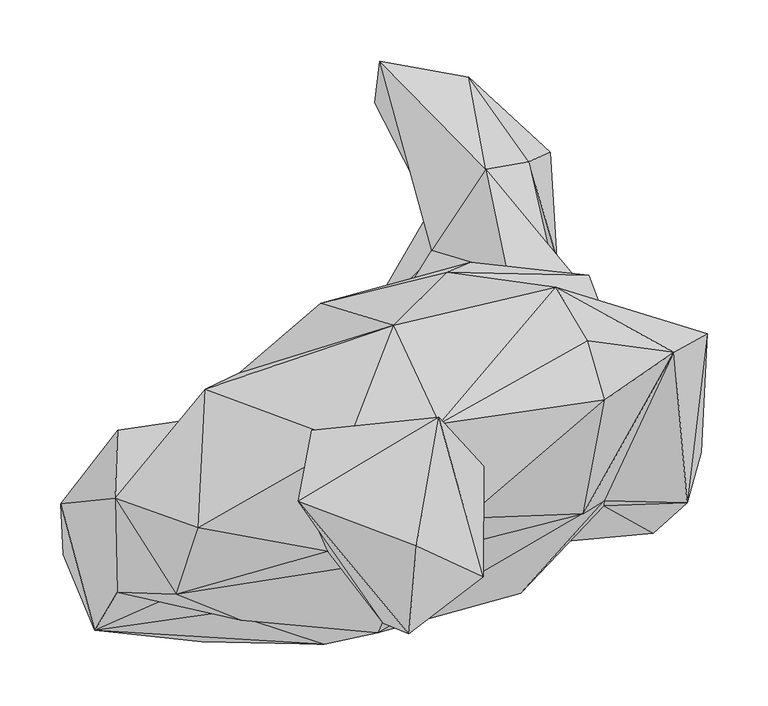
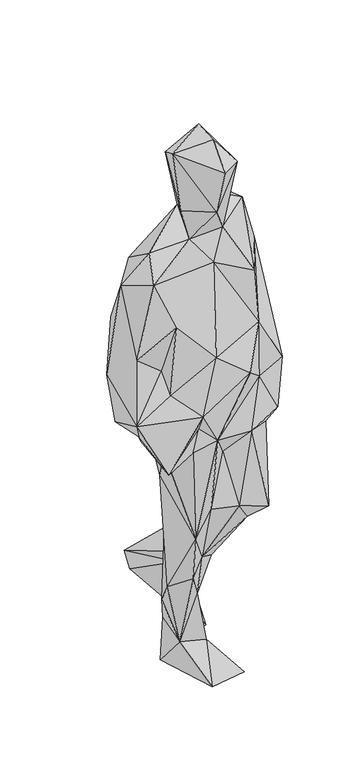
"""IFC4 building model written with IfcOpenShell, lengths in millimetres: geographic element geometry, Enscape AssetDefinition - Bobby 001 Standing : Enscape AssetDefinition - Bobby 001 Standing."""

from ifc_helpers import new_model, si_unit, origin, place, context, project, spatial, triangles, source, transform, mapped, element, save


def geographic_element_29ff1dcc(model_context):
    return source(origin(), model_context, "Body", "Tessellation", [
        triangles([(2.9679999, -204.1410097, 792.0780333), (22.8920007, -135.4189962, 529.8139907), (-40.2599972, -166.9989999, 479.2949813), (-76.8619963, -86.9470003, 296.2329902), (-156.3320093, -230.6600123, 756.3319593), (-72.1750049, -209.1290046, 782.9200167), (-53.7380035, -206.2759993, 848.6830084), (-122.2729963, -151.0310065, 763.4129951), (-186.7250124, -143.4109956, 819.0929541), (-55.8459962, -232.8949958, 901.4209957), (-243.9340023, -221.2280118, 931.199992), (105.3830025, -190.7119965, 956.7810614), (67.1629971, -117.6379957, 682.6719933), (173.3400009, -119.3049997, 879.7710091), (214.0650042, -141.7339995, 783.4529783), (14.9830006, -161.6949995, 1312.1860394), (173.8570115, -115.2409945, 1046.4849609), (241.573009, -116.5340024, 914.7150244), (253.0590085, -75.3979959, 878.095966), (188.1279973, -64.6620006, 850.4819538), (257.9880136, 21.9389997, 1034.7550083), (174.1039986, 34.8029992, 1094.5980852), (161.0790124, 69.7209987, 982.3249964), (183.5040062, -4.671, 880.9159973), (195.1690101, -38.0910003, 565.1249894), (126.2159969, -20.114999, 541.7539959), (196.0409954, -112.8040066, 728.6019659), (110.2759996, 43.9290001, 832.0900532), (64.3749996, 80.3490018, 896.5349567), (45.1559965, 72.4400006, 1063.6600027), (133.778008, 60.1290015, 1311.1230228), (31.6709979, 52.032003, 839.1469625), (-58.8850004, 46.9590023, 948.4740103), (71.8750005, -27.9660006, 626.4209936), (41.2439987, -47.083, 702.7749813), (-72.2879977, -46.2649994, 745.200008), (-105.3109956, -98.8800019, 657.6020119), (33.185999, -13.4559998, 520.0830076), (20.9060004, -17.0230014, 632.7720594), (-63.9220022, -54.7199975, 533.3909889), (94.1839949, 71.9769974, 399.1999792), (212.7680085, -66.2640013, 530.1740341), (147.7130041, 70.6610031, 397.4049943), (32.118, 90.3240016, 260.800996), (76.5320019, 156.9420011, 291.3799798), (193.3739888, -131.7089937, 479.7900092), (19.125, -98.3539984, 362.1530036), (174.6439911, -55.3769978, 407.4530002), (129.970001, 84.445, 286.6309964), (100.1889972, -2.0550001, 281.518009), (133.8800004, -149.1889951, 742.7629475), (97.3189962, -148.249999, 522.1509773), (16.1150002, -76.6729998, 237.5949996), (-24.0779998, -127.3449977, 326.7159951), (-54.0210031, -19.1009984, 209.0499942), (20.7850004, 15.5129998, 202.4920006), (-20.2980002, 5.5709995, 318.0040269), (48.989002, 87.701996, 223.7310021), (-10.2390007, 245.4629969, 183.9059984), (111.9289965, 163.1810098, 190.6069884), (-14.5310001, 211.4360041, 149.1910026), (62.6380008, 232.4920044, 127.2089958), (129.5070024, 170.9570068, 49.4149979), (134.6790068, 84.0290007, 1.347), (9.0860001, 56.8200011, 26.3570008), (54.4020028, -3.5929998, 60.4099981), (41.5199993, -79.3429949, 88.6339976), (95.4029976, -178.269006, 29.2660007), (52.8650008, -86.1800049, 1.226), (4.7909997, -172.3369916, 11.4590003), (-43.2749975, 6.2950004, 3.3539999), (-27.1139995, -64.1349979, 95.5360018), (46.3509998, 149.7420045, 78.5370031), (-25.590001, 25.5420002, 116.1900009), (20.3649997, 26.8820006, 125.7969999), (42.7399966, 95.3349966, 148.7309925), (-125.141989, -10.0940003, 918.6110075), (-174.7989962, -49.8440006, 1189.4420053), (1.022, 28.944, 1341.4599792), (-233.6020021, -85.6370057, 960.454965), (-162.3630002, -80.3920043, 944.1400452), (-225.3410056, -57.3189986, 1164.1089586), (-153.3229996, -23.651, 1302.111945), (-159.2969991, -137.2849978, 1385.3559917), (-63.4529946, -132.7469936, 1480.0880001), (-36.0740018, -66.9609973, 1450.7679874), (-52.9550026, -156.3369872, 1403.8419273), (-77.3520009, -115.5900012, 1652.0709618), (-66.3570007, -57.234002, 1618.4840584), (-7.4420001, -215.571998, 1507.1649811), (19.3969992, -152.0179921, 1682.0419521), (13.1909997, -224.0960053, 1625.693066), (74.6409972, -177.4650035, 1612.4929996), (37.8369982, -46.8729974, 1661.9809673), (74.7110011, -86.8420012, 1537.6859379), (160.303987, 16.1869991, 1374.7019909), (38.6719991, -52.1179988, 1461.0550049), (230.8389985, 6.8499998, 1212.991004), (174.2990085, -32.134998, 1379.1440163), (156.6800076, -125.8089995, 1215.7430889), (60.6819973, -129.6029994, 1386.2630585), (-177.3760009, -191.9170102, 1325.0290054), (-136.9790027, -206.2170094, 979.10201), (-12.0630003, -223.1940073, 1063.8099936), (-124.107005, -212.9790058, 1190.0329576), (-225.5040044, -189.998995, 1109.7650373), (-147.4290007, -178.5779988, 1042.5180519), (-271.8079913, -117.6249969, 1038.6370388), (-227.3349973, -113.0620033, 1293.8730583), (-219.8139992, -190.9810026, 873.0839899), (-270.1059876, -159.3769906, 917.9099602)], [[80, 110, 111], [11, 103, 107], [110, 11, 111], [108, 80, 111], [80, 108, 82], [111, 11, 108], [82, 108, 109], [108, 11, 106], [106, 11, 107], [106, 109, 108], [103, 104, 105], [107, 105, 106], [103, 105, 107], [106, 105, 102], [106, 102, 109], [105, 104, 16], [102, 105, 16], [100, 101, 16], [98, 99, 100], [99, 101, 100], [99, 98, 96], [98, 31, 96], [96, 97, 99], [97, 101, 99], [31, 97, 96], [95, 101, 97], [95, 93, 101], [95, 97, 94], [93, 95, 94], [91, 93, 94], [91, 92, 93], [92, 90, 93], [90, 101, 93], [88, 91, 94], [88, 92, 91], [88, 90, 92], [97, 89, 94], [88, 94, 89], [89, 85, 88], [85, 90, 88], [90, 87, 101], [87, 102, 16], [87, 16, 101], [85, 87, 90], [84, 102, 87], [109, 102, 84], [97, 86, 89], [84, 87, 86], [85, 89, 86], [87, 85, 86], [31, 79, 97], [97, 79, 86], [79, 83, 86], [83, 84, 86], [83, 109, 84], [109, 83, 78], [82, 109, 78], [78, 80, 82], [110, 80, 81], [80, 78, 81], [83, 77, 78], [77, 83, 79], [77, 81, 78], [74, 75, 76], [73, 74, 76], [65, 74, 73], [75, 74, 56], [74, 65, 71], [71, 72, 74], [71, 70, 72], [70, 67, 72], [65, 69, 71], [69, 70, 71], [69, 68, 70], [70, 68, 67], [75, 66, 76], [56, 66, 75], [66, 69, 65], [67, 68, 66], [68, 69, 66], [76, 66, 64], [64, 65, 73], [66, 65, 64], [63, 64, 73], [62, 63, 73], [62, 73, 61], [60, 64, 63], [60, 76, 64], [63, 62, 60], [49, 76, 60], [60, 62, 45], [45, 49, 60], [45, 62, 59], [62, 61, 59], [59, 61, 58], [76, 49, 58], [73, 58, 61], [73, 76, 58], [59, 44, 45], [59, 58, 44], [56, 44, 58], [56, 57, 44], [56, 74, 57], [74, 55, 57], [72, 55, 74], [57, 55, 40], [4, 37, 40], [72, 4, 55], [4, 40, 55], [72, 54, 4], [53, 67, 66], [54, 72, 53], [72, 67, 53], [53, 66, 56], [58, 50, 56], [50, 53, 56], [50, 58, 49], [50, 47, 53], [47, 54, 53], [2, 52, 13], [2, 47, 52], [52, 51, 13], [46, 27, 51], [52, 46, 51], [49, 48, 50], [46, 52, 48], [48, 47, 50], [52, 47, 48], [42, 27, 46], [42, 46, 48], [43, 42, 48], [43, 48, 49], [43, 49, 45], [44, 41, 45], [45, 41, 43], [57, 41, 44], [42, 43, 26], [43, 41, 26], [41, 57, 38], [41, 38, 26], [57, 40, 38], [26, 39, 34], [26, 38, 39], [39, 38, 40], [34, 39, 35], [39, 36, 35], [39, 40, 36], [36, 37, 77], [40, 37, 36], [33, 36, 77], [33, 77, 79], [32, 35, 36], [34, 35, 32], [32, 36, 33], [29, 32, 33], [31, 30, 79], [30, 33, 79], [29, 33, 30], [31, 22, 30], [22, 23, 30], [29, 30, 23], [28, 34, 32], [29, 28, 32], [23, 28, 29], [28, 26, 34], [27, 42, 25], [25, 26, 28], [42, 26, 25], [27, 25, 20], [22, 24, 23], [24, 25, 28], [24, 20, 25], [23, 24, 28], [21, 24, 22], [22, 31, 21], [98, 21, 31], [20, 19, 27], [19, 24, 21], [20, 24, 19], [19, 15, 27], [51, 27, 15], [98, 18, 21], [18, 19, 21], [18, 15, 19], [100, 17, 98], [100, 16, 17], [17, 18, 98], [104, 17, 16], [14, 18, 17], [15, 18, 14], [51, 15, 14], [104, 12, 17], [17, 12, 14], [14, 12, 1], [14, 1, 51], [1, 13, 51], [1, 2, 13], [12, 10, 1], [12, 104, 10], [103, 11, 10], [103, 10, 104], [10, 7, 1], [5, 7, 10], [5, 11, 110], [11, 5, 10], [9, 5, 110], [81, 9, 110], [8, 81, 77], [81, 8, 9], [8, 77, 37], [8, 5, 9], [6, 1, 7], [5, 8, 6], [5, 6, 7], [37, 3, 8], [8, 3, 6], [3, 4, 54], [3, 47, 2], [3, 2, 1], [3, 54, 47], [3, 1, 6], [3, 37, 4]]),
    ])


if __name__ == "__main__":
    model = new_model("IFC4")
    model_context = context("Model", 3, world=origin())
    ifc_project = project(units=[si_unit("LENGTHUNIT", "METRE", prefix="MILLI")], contexts=[model_context])
    site = spatial("IfcSite", under=ifc_project)
    building = spatial("IfcBuilding", under=site)
    placement = place(None, origin())
    geographic_element_shape = geographic_element_29ff1dcc(model_context)
    element("IfcGeographicElement", 1, ObjectType="Enscape AssetDefinition - Bobby 001 Standing : Enscape AssetDefinition - Bobby 001 Standing", at=placement, inside=building, context=model_context, shape_type="MappedRepresentation", body=[
        mapped(geographic_element_shape, transform((0.0, 0.0, 0.0), x_axis=(1.0, 0.0, 0.0), y_axis=(0.0, 1.0, 0.0), z_axis=(0.0, 0.0, 1.0))),
    ])
    save(model, "model.ifc")
